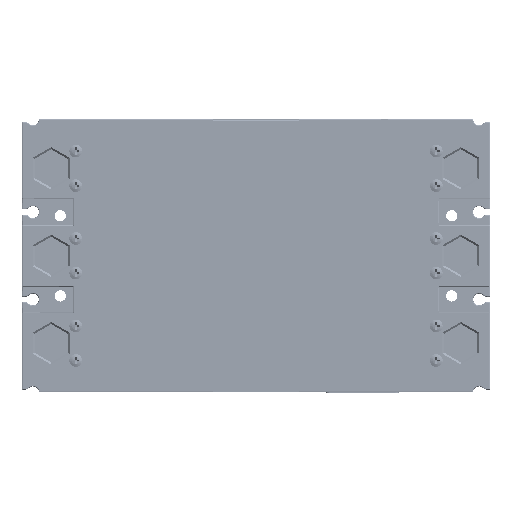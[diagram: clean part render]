
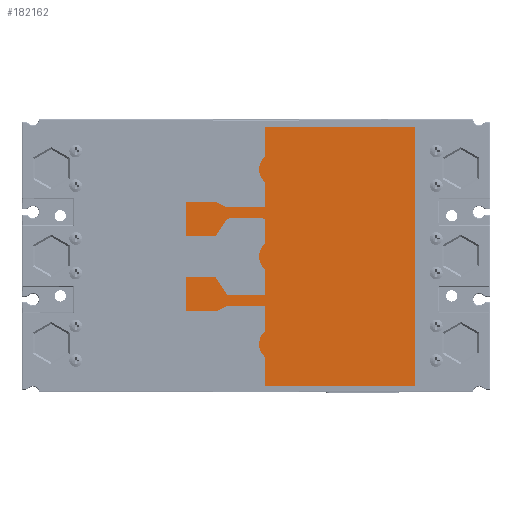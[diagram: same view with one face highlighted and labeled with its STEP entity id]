
A CAD part, front view. The second image highlights one B-rep face of the part: STEP entity #182162.
In plain terms, the highlighted planar face has unit normal (0, -1, 0) as drawn and (0, 0, 1) by its records, which use the part's own axes.
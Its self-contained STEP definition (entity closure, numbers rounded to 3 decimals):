
#181659=DIRECTION('',(0.,1.,0.));
#181660=VECTOR('',#181659,20.5);
#181661=CARTESIAN_POINT('',(27.1,82.5,0.8));
#181662=LINE('',#181661,#181660);
#181663=DIRECTION('',(-1.,0.,0.));
#181664=VECTOR('',#181663,13.972);
#181665=CARTESIAN_POINT('',(41.072,82.5,0.8));
#181666=LINE('',#181665,#181664);
#181667=CARTESIAN_POINT('',(48.,76.,0.8));
#181668=DIRECTION('',(0.,0.,1.));
#181669=DIRECTION('',(0.729,0.684,0.));
#181670=AXIS2_PLACEMENT_3D('',#181667,#181668,#181669);
#181672=DIRECTION('',(-1.,0.,0.));
#181673=VECTOR('',#181672,16.072);
#181674=CARTESIAN_POINT('',(71.,82.5,0.8));
#181675=LINE('',#181674,#181673);
#181676=DIRECTION('',(0.,1.,0.));
#181677=VECTOR('',#181676,82.5);
#181678=CARTESIAN_POINT('',(71.,0.,0.8));
#181679=LINE('',#181678,#181677);
#181680=DIRECTION('',(-1.,0.,0.));
#181681=VECTOR('',#181680,142.);
#181682=CARTESIAN_POINT('',(71.,0.,0.8));
#181683=LINE('',#181682,#181681);
#181684=DIRECTION('',(0.,-1.,0.));
#181685=VECTOR('',#181684,82.5);
#181686=CARTESIAN_POINT('',(-71.,82.5,0.8));
#181687=LINE('',#181686,#181685);
#181688=DIRECTION('',(-1.,0.,0.));
#181689=VECTOR('',#181688,16.072);
#181690=CARTESIAN_POINT('',(-54.928,82.5,0.8));
#181691=LINE('',#181690,#181689);
#181692=CARTESIAN_POINT('',(-48.,76.,0.8));
#181693=DIRECTION('',(0.,0.,1.));
#181694=DIRECTION('',(0.729,0.684,0.));
#181695=AXIS2_PLACEMENT_3D('',#181692,#181693,#181694);
#181697=DIRECTION('',(-1.,0.,0.));
#181698=VECTOR('',#181697,13.972);
#181699=CARTESIAN_POINT('',(-27.1,82.5,0.8));
#181700=LINE('',#181699,#181698);
#181701=DIRECTION('',(0.,-1.,0.));
#181702=VECTOR('',#181701,20.5);
#181703=CARTESIAN_POINT('',(-27.1,103.,0.8));
#181704=LINE('',#181703,#181702);
#181705=DIRECTION('',(0.436,-0.9,0.));
#181706=VECTOR('',#181705,7.223);
#181707=CARTESIAN_POINT('',(-30.25,109.5,0.8));
#181708=LINE('',#181707,#181706);
#181709=DIRECTION('',(0.,-1.,0.));
#181710=VECTOR('',#181709,16.);
#181711=CARTESIAN_POINT('',(-30.25,125.5,0.8));
#181712=LINE('',#181711,#181710);
#181713=DIRECTION('',(-1.,0.,0.));
#181714=VECTOR('',#181713,19.);
#181715=CARTESIAN_POINT('',(-11.25,125.5,0.8));
#181716=LINE('',#181715,#181714);
#181717=DIRECTION('',(0.,1.,0.));
#181718=VECTOR('',#181717,16.);
#181719=CARTESIAN_POINT('',(-11.25,109.5,0.8));
#181720=LINE('',#181719,#181718);
#181721=DIRECTION('',(0.829,0.559,0.));
#181722=VECTOR('',#181721,11.635);
#181723=CARTESIAN_POINT('',(-20.9,103.,0.8));
#181724=LINE('',#181723,#181722);
#181725=DIRECTION('',(0.,1.,0.));
#181726=VECTOR('',#181725,20.5);
#181727=CARTESIAN_POINT('',(-20.9,82.5,0.8));
#181728=LINE('',#181727,#181726);
#181729=DIRECTION('',(-1.,0.,0.));
#181730=VECTOR('',#181729,13.972);
#181731=CARTESIAN_POINT('',(-6.928,82.5,0.8));
#181732=LINE('',#181731,#181730);
#181733=CARTESIAN_POINT('',(0.,76.,0.8));
#181734=DIRECTION('',(0.,0.,1.));
#181735=DIRECTION('',(0.729,0.684,0.));
#181736=AXIS2_PLACEMENT_3D('',#181733,#181734,#181735);
#181738=DIRECTION('',(-1.,0.,0.));
#181739=VECTOR('',#181738,13.972);
#181740=CARTESIAN_POINT('',(20.9,82.5,0.8));
#181741=LINE('',#181740,#181739);
#181742=DIRECTION('',(0.,-1.,0.));
#181743=VECTOR('',#181742,20.5);
#181744=CARTESIAN_POINT('',(20.9,103.,0.8));
#181745=LINE('',#181744,#181743);
#181746=DIRECTION('',(0.829,-0.559,0.));
#181747=VECTOR('',#181746,11.635);
#181748=CARTESIAN_POINT('',(11.25,109.5,0.8));
#181749=LINE('',#181748,#181747);
#181750=DIRECTION('',(0.,-1.,0.));
#181751=VECTOR('',#181750,16.);
#181752=CARTESIAN_POINT('',(11.25,125.5,0.8));
#181753=LINE('',#181752,#181751);
#181754=DIRECTION('',(-1.,0.,0.));
#181755=VECTOR('',#181754,19.);
#181756=CARTESIAN_POINT('',(30.25,125.5,0.8));
#181757=LINE('',#181756,#181755);
#181758=DIRECTION('',(0.,1.,0.));
#181759=VECTOR('',#181758,16.);
#181760=CARTESIAN_POINT('',(30.25,109.5,0.8));
#181761=LINE('',#181760,#181759);
#181762=DIRECTION('',(0.436,0.9,0.));
#181763=VECTOR('',#181762,7.223);
#181764=CARTESIAN_POINT('',(27.1,103.,0.8));
#181765=LINE('',#181764,#181763);
#181870=CARTESIAN_POINT('',(-20.9,103.,0.8));
#181871=CARTESIAN_POINT('',(-11.25,109.5,0.8));
#181872=VERTEX_POINT('',#181870);
#181873=VERTEX_POINT('',#181871);
#181874=CARTESIAN_POINT('',(-11.25,125.5,0.8));
#181875=VERTEX_POINT('',#181874);
#181876=CARTESIAN_POINT('',(-30.25,125.5,0.8));
#181877=VERTEX_POINT('',#181876);
#181878=CARTESIAN_POINT('',(-30.25,109.5,0.8));
#181879=VERTEX_POINT('',#181878);
#181880=CARTESIAN_POINT('',(-27.1,103.,0.8));
#181881=VERTEX_POINT('',#181880);
#181882=CARTESIAN_POINT('',(27.1,103.,0.8));
#181883=CARTESIAN_POINT('',(30.25,109.5,0.8));
#181884=VERTEX_POINT('',#181882);
#181885=VERTEX_POINT('',#181883);
#181886=CARTESIAN_POINT('',(30.25,125.5,0.8));
#181887=VERTEX_POINT('',#181886);
#181888=CARTESIAN_POINT('',(11.25,125.5,0.8));
#181889=VERTEX_POINT('',#181888);
#181890=CARTESIAN_POINT('',(11.25,109.5,0.8));
#181891=VERTEX_POINT('',#181890);
#181892=CARTESIAN_POINT('',(20.9,103.,0.8));
#181893=VERTEX_POINT('',#181892);
#181912=CARTESIAN_POINT('',(71.,0.,0.8));
#181913=CARTESIAN_POINT('',(71.,82.5,0.8));
#181914=VERTEX_POINT('',#181912);
#181915=VERTEX_POINT('',#181913);
#181916=CARTESIAN_POINT('',(54.928,82.5,0.8));
#181917=VERTEX_POINT('',#181916);
#181918=CARTESIAN_POINT('',(41.072,82.5,0.8));
#181919=VERTEX_POINT('',#181918);
#181920=CARTESIAN_POINT('',(6.928,82.5,0.8));
#181921=CARTESIAN_POINT('',(-6.928,82.5,0.8));
#181922=VERTEX_POINT('',#181920);
#181923=VERTEX_POINT('',#181921);
#181924=CARTESIAN_POINT('',(-41.072,82.5,0.8));
#181925=CARTESIAN_POINT('',(-54.928,82.5,0.8));
#181926=VERTEX_POINT('',#181924);
#181927=VERTEX_POINT('',#181925);
#181928=CARTESIAN_POINT('',(-71.,82.5,0.8));
#181929=VERTEX_POINT('',#181928);
#181930=CARTESIAN_POINT('',(-20.9,82.5,0.8));
#181932=VERTEX_POINT('',#181930);
#181934=CARTESIAN_POINT('',(-27.1,82.5,0.8));
#181936=VERTEX_POINT('',#181934);
#181938=CARTESIAN_POINT('',(27.1,82.5,0.8));
#181940=VERTEX_POINT('',#181938);
#181942=CARTESIAN_POINT('',(20.9,82.5,0.8));
#181944=VERTEX_POINT('',#181942);
#181946=CARTESIAN_POINT('',(-71.,0.,0.8));
#181947=VERTEX_POINT('',#181946);
#182110=CARTESIAN_POINT('',(0.,0.,0.8));
#182111=DIRECTION('',(0.,0.,1.));
#182112=DIRECTION('',(1.,0.,0.));
#182113=AXIS2_PLACEMENT_3D('',#182110,#182111,#182112);
#182114=PLANE('',#182113);
#182116=ORIENTED_EDGE('',*,*,#182115,.F.);
#182118=ORIENTED_EDGE('',*,*,#182117,.F.);
#182120=ORIENTED_EDGE('',*,*,#182119,.F.);
#182122=ORIENTED_EDGE('',*,*,#182121,.F.);
#182124=ORIENTED_EDGE('',*,*,#182123,.F.);
#182125=ORIENTED_EDGE('',*,*,#182018,.T.);
#182126=ORIENTED_EDGE('',*,*,#182033,.F.);
#182127=ORIENTED_EDGE('',*,*,#182047,.F.);
#182128=ORIENTED_EDGE('',*,*,#182061,.F.);
#182129=ORIENTED_EDGE('',*,*,#182089,.F.);
#182131=ORIENTED_EDGE('',*,*,#182130,.F.);
#182133=ORIENTED_EDGE('',*,*,#182132,.F.);
#182135=ORIENTED_EDGE('',*,*,#182134,.F.);
#182137=ORIENTED_EDGE('',*,*,#182136,.F.);
#182139=ORIENTED_EDGE('',*,*,#182138,.F.);
#182141=ORIENTED_EDGE('',*,*,#182140,.F.);
#182142=ORIENTED_EDGE('',*,*,#182102,.F.);
#182143=ORIENTED_EDGE('',*,*,#182077,.F.);
#182145=ORIENTED_EDGE('',*,*,#182144,.F.);
#182147=ORIENTED_EDGE('',*,*,#182146,.F.);
#182149=ORIENTED_EDGE('',*,*,#182148,.F.);
#182151=ORIENTED_EDGE('',*,*,#182150,.F.);
#182153=ORIENTED_EDGE('',*,*,#182152,.F.);
#182155=ORIENTED_EDGE('',*,*,#182154,.F.);
#182157=ORIENTED_EDGE('',*,*,#182156,.F.);
#182159=ORIENTED_EDGE('',*,*,#182158,.F.);
#182160=EDGE_LOOP('',(#182116,#182118,#182120,#182122,#182124,#182125,#182126,
#182127,#182128,#182129,#182131,#182133,#182135,#182137,#182139,#182141,#182142,
#182143,#182145,#182147,#182149,#182151,#182153,#182155,#182157,#182159));
#182161=FACE_OUTER_BOUND('',#182160,.F.);
#182162=ADVANCED_FACE('',(#182161),#182114,.T.);
#181671=CIRCLE('',#181670,9.5);
#181696=CIRCLE('',#181695,9.5);
#181737=CIRCLE('',#181736,9.5);
#182018=EDGE_CURVE('',#181914,#181947,#181683,.T.);
#182033=EDGE_CURVE('',#181929,#181947,#181687,.T.);
#182047=EDGE_CURVE('',#181927,#181929,#181691,.T.);
#182061=EDGE_CURVE('',#181926,#181927,#181696,.T.);
#182077=EDGE_CURVE('',#181923,#181932,#181732,.T.);
#182089=EDGE_CURVE('',#181936,#181926,#181700,.T.);
#182102=EDGE_CURVE('',#181932,#181872,#181728,.T.);
#182115=EDGE_CURVE('',#181940,#181884,#181662,.T.);
#182117=EDGE_CURVE('',#181919,#181940,#181666,.T.);
#182119=EDGE_CURVE('',#181917,#181919,#181671,.T.);
#182121=EDGE_CURVE('',#181915,#181917,#181675,.T.);
#182123=EDGE_CURVE('',#181914,#181915,#181679,.T.);
#182130=EDGE_CURVE('',#181881,#181936,#181704,.T.);
#182132=EDGE_CURVE('',#181879,#181881,#181708,.T.);
#182134=EDGE_CURVE('',#181877,#181879,#181712,.T.);
#182136=EDGE_CURVE('',#181875,#181877,#181716,.T.);
#182138=EDGE_CURVE('',#181873,#181875,#181720,.T.);
#182140=EDGE_CURVE('',#181872,#181873,#181724,.T.);
#182144=EDGE_CURVE('',#181922,#181923,#181737,.T.);
#182146=EDGE_CURVE('',#181944,#181922,#181741,.T.);
#182148=EDGE_CURVE('',#181893,#181944,#181745,.T.);
#182150=EDGE_CURVE('',#181891,#181893,#181749,.T.);
#182152=EDGE_CURVE('',#181889,#181891,#181753,.T.);
#182154=EDGE_CURVE('',#181887,#181889,#181757,.T.);
#182156=EDGE_CURVE('',#181885,#181887,#181761,.T.);
#182158=EDGE_CURVE('',#181884,#181885,#181765,.T.);
